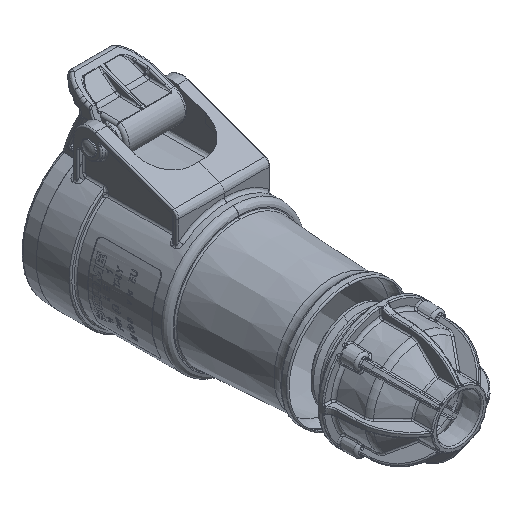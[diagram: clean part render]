
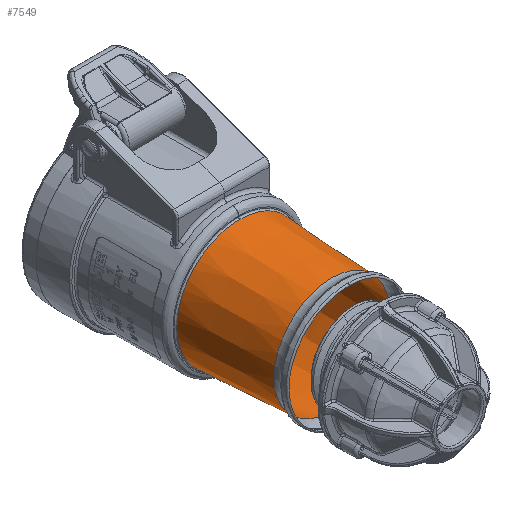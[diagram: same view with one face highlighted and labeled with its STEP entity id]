
A CAD part, isometric view. The second image highlights one B-rep face of the part: STEP entity #7549.
In plain terms, the highlighted conical face has half-angle 3 degrees and reference radius 19.823 mm.
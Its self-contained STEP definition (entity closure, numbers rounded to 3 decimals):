
#55=CONICAL_SURFACE('',#20319,19.823,3.);
#623=FACE_BOUND('',#9161,.T.);
#624=FACE_BOUND('',#9162,.T.);
#2367=CIRCLE('',#20177,19.823);
#7549=ADVANCED_FACE('',(#623,#624),#55,.T.);
#9161=EDGE_LOOP('',(#10344,#10345));
#9162=EDGE_LOOP('',(#10346));
#10344=ORIENTED_EDGE('',*,*,#15663,.T.);
#10345=ORIENTED_EDGE('',*,*,#15924,.F.);
#10346=ORIENTED_EDGE('',*,*,#15669,.F.);
#13972=VERTEX_POINT('',#25342);
#13973=VERTEX_POINT('',#25357);
#13978=VERTEX_POINT('',#25473);
#15663=EDGE_CURVE('',#13973,#13972,#18093,.T.);
#15669=EDGE_CURVE('',#13978,#13978,#2367,.T.);
#15924=EDGE_CURVE('',#13973,#13972,#18178,.T.);
#18093=B_SPLINE_CURVE_WITH_KNOTS('',3,(#25343,#25344,#25345,#25346,#25347,
#25348,#25349,#25350,#25351,#25352,#25353,#25354,#25355,#25356),
 .UNSPECIFIED.,.F.,.F.,(4,2,2,2,2,2,4),(0.,0.25,0.375,0.5,0.625,0.75,1.),
 .UNSPECIFIED.);
#18178=B_SPLINE_CURVE_WITH_KNOTS('',3,(#27906,#27907,#27908,#27909,#27910,
#27911,#27912,#27913,#27914,#27915,#27916,#27917,#27918,#27919),
 .UNSPECIFIED.,.F.,.F.,(4,2,2,2,2,2,4),(0.,0.25,0.375,0.5,0.625,0.75,1.),
 .UNSPECIFIED.);
#20177=AXIS2_PLACEMENT_3D('',#25472,#21603,#21604);
#20319=AXIS2_PLACEMENT_3D('',#27920,#21961,#21962);
#21603=DIRECTION('',(0.,-1.,0.));
#21604=DIRECTION('',(1.,0.,0.));
#21961=DIRECTION('',(0.,1.,0.));
#21962=DIRECTION('',(-1.,0.,0.));
#25342=CARTESIAN_POINT('',(0.,-61.474,21.475));
#25343=CARTESIAN_POINT('',(0.,-61.474,-21.475));
#25344=CARTESIAN_POINT('',(5.672,-61.423,-21.478));
#25345=CARTESIAN_POINT('',(11.246,-61.373,-19.138));
#25346=CARTESIAN_POINT('',(17.181,-61.32,-13.197));
#25347=CARTESIAN_POINT('',(18.777,-61.306,-10.812));
#25348=CARTESIAN_POINT('',(20.927,-61.287,-5.618));
#25349=CARTESIAN_POINT('',(21.486,-61.282,-2.828));
#25350=CARTESIAN_POINT('',(21.485,-61.282,2.833));
#25351=CARTESIAN_POINT('',(20.928,-61.287,5.62));
#25352=CARTESIAN_POINT('',(18.769,-61.306,10.827));
#25353=CARTESIAN_POINT('',(17.177,-61.32,13.204));
#25354=CARTESIAN_POINT('',(11.231,-61.374,19.149));
#25355=CARTESIAN_POINT('',(5.672,-61.423,21.478));
#25356=CARTESIAN_POINT('',(0.,-61.474,21.475));
#25357=CARTESIAN_POINT('',(0.,-61.474,-21.475));
#25472=CARTESIAN_POINT('',(0.,-93.007,0.));
#25473=CARTESIAN_POINT('',(19.823,-93.007,0.));
#27906=CARTESIAN_POINT('',(0.,-61.474,-21.475));
#27907=CARTESIAN_POINT('',(-5.672,-61.423,-21.478));
#27908=CARTESIAN_POINT('',(-11.246,-61.373,-19.138));
#27909=CARTESIAN_POINT('',(-17.181,-61.32,-13.197));
#27910=CARTESIAN_POINT('',(-18.777,-61.306,-10.812));
#27911=CARTESIAN_POINT('',(-20.927,-61.287,-5.618));
#27912=CARTESIAN_POINT('',(-21.486,-61.282,-2.828));
#27913=CARTESIAN_POINT('',(-21.485,-61.282,2.833));
#27914=CARTESIAN_POINT('',(-20.928,-61.287,5.62));
#27915=CARTESIAN_POINT('',(-18.769,-61.306,10.827));
#27916=CARTESIAN_POINT('',(-17.177,-61.32,13.204));
#27917=CARTESIAN_POINT('',(-11.231,-61.374,19.149));
#27918=CARTESIAN_POINT('',(-5.672,-61.423,21.478));
#27919=CARTESIAN_POINT('',(0.,-61.474,21.475));
#27920=CARTESIAN_POINT('',(0.,-93.007,0.));
